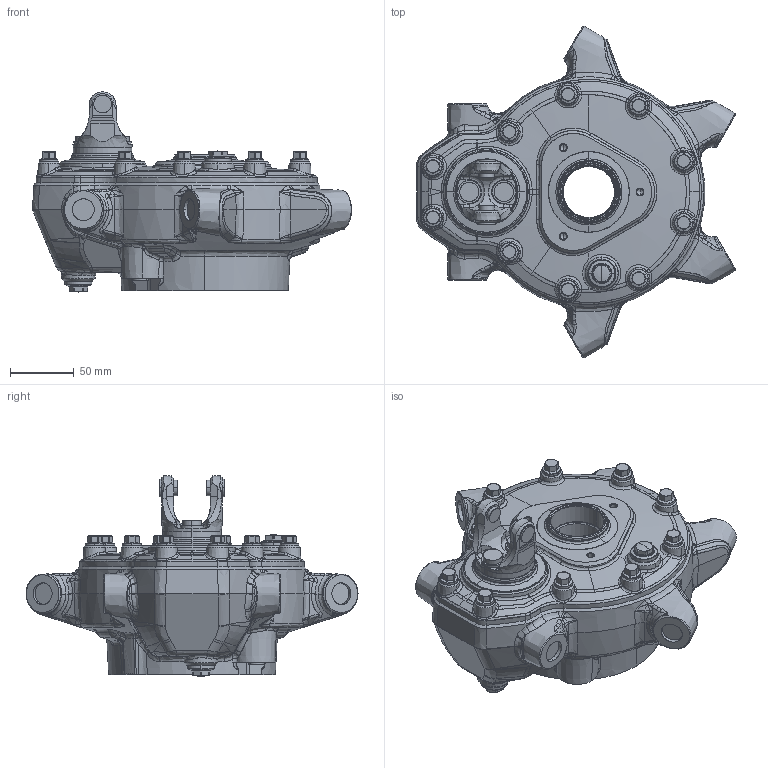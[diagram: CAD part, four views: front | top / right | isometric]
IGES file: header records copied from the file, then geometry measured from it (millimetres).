
Start section: SolidWorks IGES file using analytic representation for surfaces
Global section: file name: C:\Data\SAP_DOC_20200123_IRB390\Lättmodeller_IRB390\Final_4axis\IRB390_15kg_1300_STD_rev0_IGES_J\IRB390_15_1300_STD_4D_DB_00.IGS; native system: SolidWorks 2018; preprocessor: SolidWorks 2018; author: sestdan2; date: 200204.154428; units: millimetre
Bounding box: 249.42 x 259.6 x 156.63 mm (x, y, z)
Surface area: 153286.8 mm2 (no closed solid volume)
Topology: 0 solids, 0 shells, 1550 faces, 18703 edges, 18659 vertices
Faces by surface type: bspline 968, revolution 582
